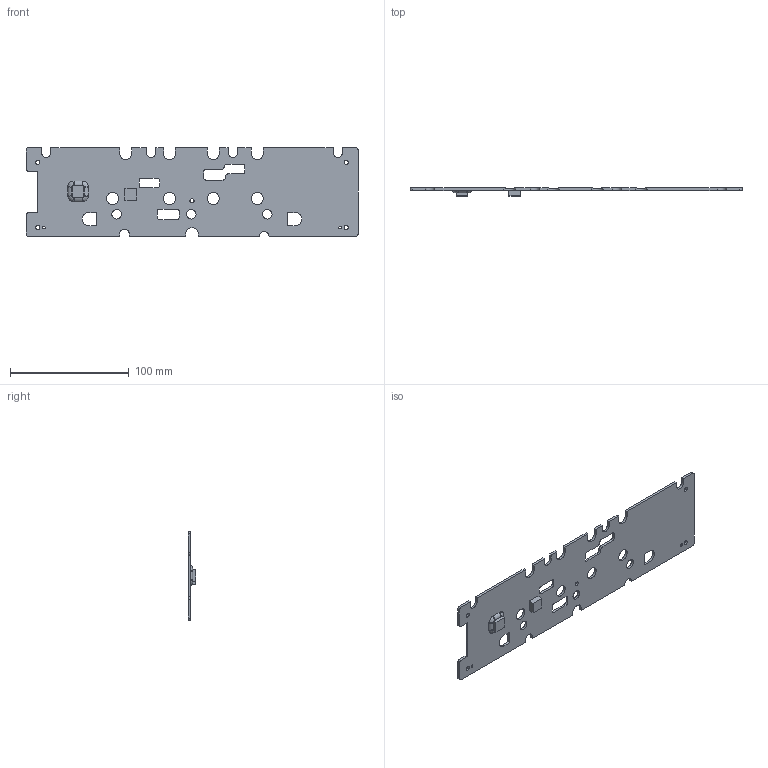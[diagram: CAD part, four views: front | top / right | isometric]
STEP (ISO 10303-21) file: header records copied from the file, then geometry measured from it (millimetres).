
FILE_DESCRIPTION((''),'2;1');
FILE_NAME('HEATSPREADER_AMP_TOP_ASSY_ASM','2020-08-11T',('G6003023'),(''),'PRO/ENGINEER BY PARAMETRIC TECHNOLOGY CORPORATION, 2013150','PRO/ENGINEER BY PARAMETRIC TECHNOLOGY CORPORATION, 2013150','');
FILE_SCHEMA(('CONFIG_CONTROL_DESIGN'));
Length unit declared in the file: millimetre
Products named in the file (4): HEATSPREADER_AMP_TOP; THERMAL_PAD-01_-K5; THERMAL_PAD-02_-K5; HEATSPREADER_AMP_TOP_ASSY_ASM
Assembly tree (3 placements, depth 2):
  HEATSPREADER_AMP_TOP_ASSY_ASM
    HEATSPREADER_AMP_TOP
    THERMAL_PAD-01_-K5
    THERMAL_PAD-02_-K5
Bounding box: 280 x 6.7 x 75 mm (x, y, z)
Volume: 37957.6 mm3; surface area: 40719.6 mm2
Topology: 3 solids, 3 shells, 191 faces, 525 edges, 342 vertices
Faces by surface type: cylinder 85, plane 78, bspline 28
Entity records: 7618 total; most frequent: CARTESIAN_POINT 2654, ORIENTED_EDGE 1050, DIRECTION 975, EDGE_CURVE 525, VERTEX_POINT 342, AXIS2_PLACEMENT_3D 340, VECTOR 295, LINE 295
